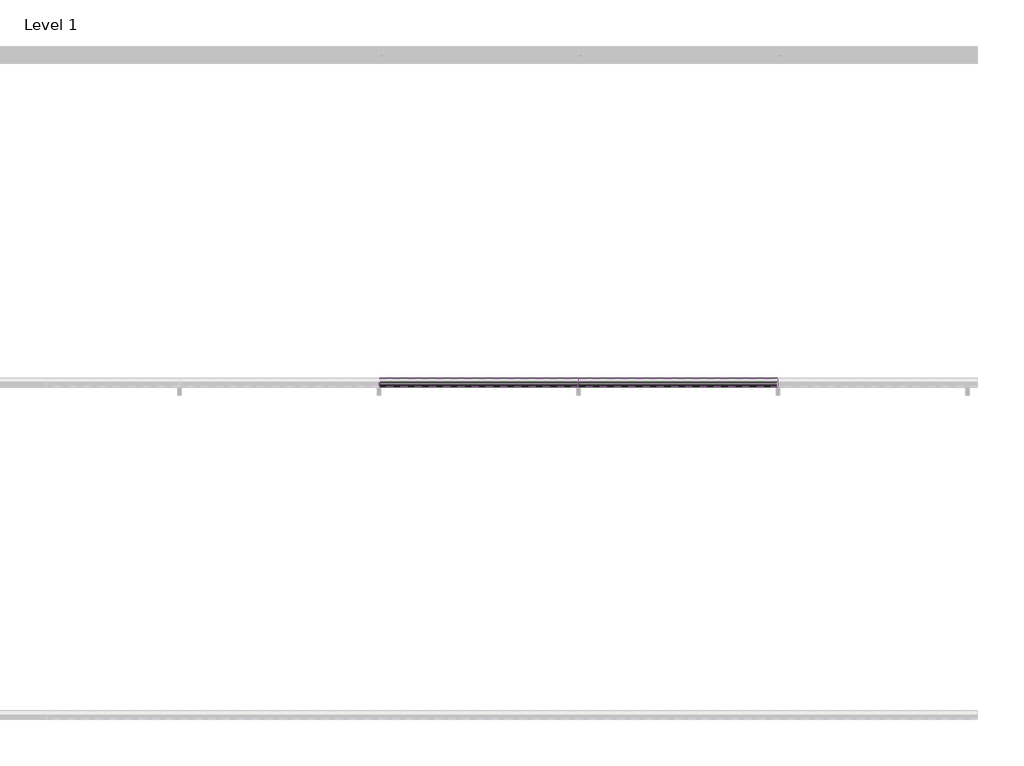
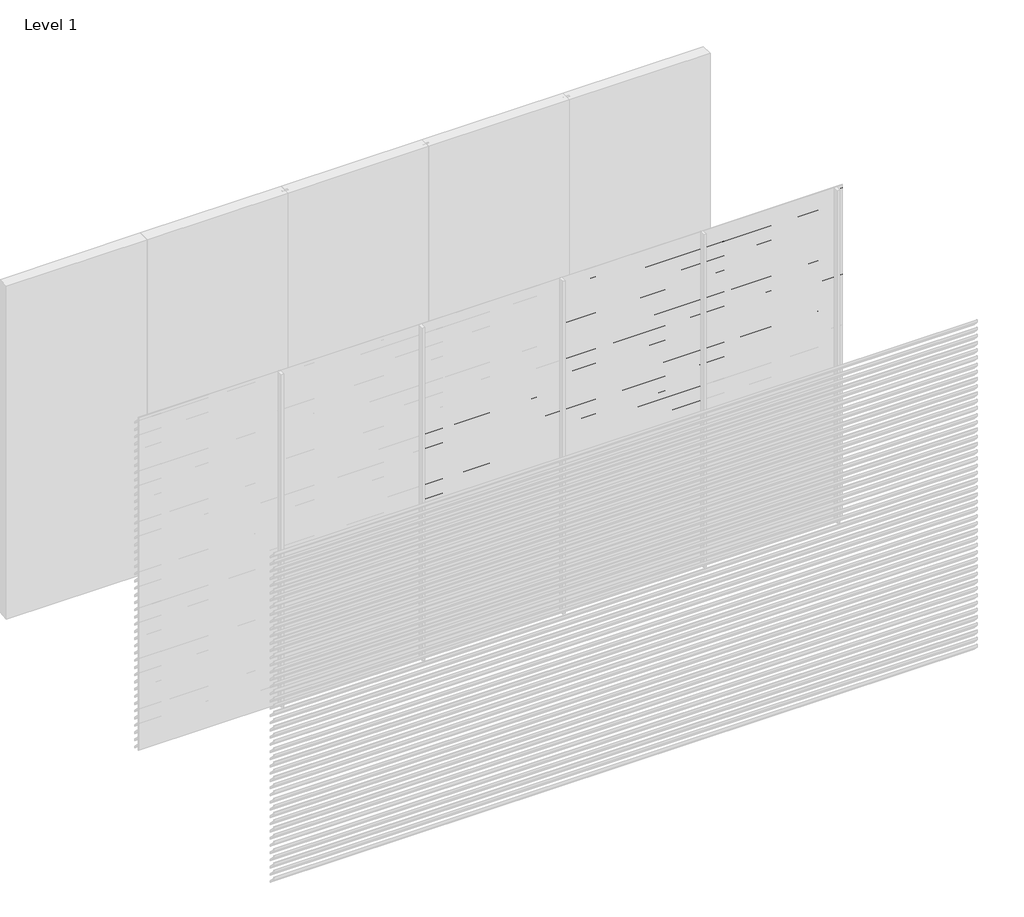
# One storey, part 9 of 12: 97 proxies.
"""IFC4 building model written with IfcOpenShell, lengths in millimetres."""

from ifc_helpers import new_model, si_unit, frame, origin, place, context, project, spatial, polyline, outline, extrude, element, save

model = new_model("IFC4")

# Units and contexts
model_context = context("Model", 3, world=origin())
ifc_project = project(units=[si_unit("LENGTHUNIT", "METRE", prefix="MILLI")], contexts=[model_context])

# Site, building, storey
site = spatial("IfcSite", under=ifc_project)
building = spatial("IfcBuilding", under=site)
storey = spatial("IfcBuildingStorey", under=building, Name="Level 1", Elevation=0.0)

# Proxies
placement = place(None, origin())
element("IfcBuildingElementProxy", 1, Name="Wall Sweeps", at=placement, inside=storey, context=model_context, shape_type="SweptSolid", body=[
    extrude(outline(polyline([(-5995.0, 2080.0), (-5995.0, 2070.7409854), (-5946.0, 2020.0), (-5946.0, 2004.0), (-5997.0, 2056.812046), (-5997.0, 2080.0), (-5995.0, 2080.0)])), frame((2400.0, 0.0, 0.0), z_axis=(1.0, 0.0, 0.0), x_axis=(0.0, 1.0, 0.0)), (0.0, 0.0, 1.0), 1200.0),
])
element("IfcBuildingElementProxy", 2, Name="Wall Sweeps", at=placement, inside=storey, context=model_context, shape_type="SweptSolid", body=[
    extrude(outline(polyline([(-5995.0, 2015.0), (-5995.0, 2005.7409854), (-5946.0, 1955.0), (-5946.0, 1939.0), (-5997.0, 1991.812046), (-5997.0, 2015.0), (-5995.0, 2015.0)])), frame((2400.0, 0.0, 0.0), z_axis=(1.0, 0.0, 0.0), x_axis=(0.0, 1.0, 0.0)), (0.0, 0.0, 1.0), 1200.0),
])
element("IfcBuildingElementProxy", 3, Name="Wall Sweeps", at=placement, inside=storey, context=model_context, shape_type="SweptSolid", body=[
    extrude(outline(polyline([(-5995.0, 1950.0), (-5995.0, 1940.7409854), (-5946.0, 1890.0), (-5946.0, 1874.0), (-5997.0, 1926.812046), (-5997.0, 1950.0), (-5995.0, 1950.0)])), frame((2400.0, 0.0, 0.0), z_axis=(1.0, 0.0, 0.0), x_axis=(0.0, 1.0, 0.0)), (0.0, 0.0, 1.0), 1200.0),
])
element("IfcBuildingElementProxy", 4, Name="Wall Sweeps", at=placement, inside=storey, context=model_context, shape_type="SweptSolid", body=[
    extrude(outline(polyline([(-5995.0, 1885.0), (-5995.0, 1875.7409854), (-5946.0, 1825.0), (-5946.0, 1809.0), (-5997.0, 1861.812046), (-5997.0, 1885.0), (-5995.0, 1885.0)])), frame((2400.0, 0.0, 0.0), z_axis=(1.0, 0.0, 0.0), x_axis=(0.0, 1.0, 0.0)), (0.0, 0.0, 1.0), 1200.0),
])
element("IfcBuildingElementProxy", 5, Name="Wall Sweeps", at=placement, inside=storey, context=model_context, shape_type="SweptSolid", body=[
    extrude(outline(polyline([(-5995.0, 1820.0), (-5995.0, 1810.7409854), (-5946.0, 1760.0), (-5946.0, 1744.0), (-5997.0, 1796.812046), (-5997.0, 1820.0), (-5995.0, 1820.0)])), frame((2400.0, 0.0, 0.0), z_axis=(1.0, 0.0, 0.0), x_axis=(0.0, 1.0, 0.0)), (0.0, 0.0, 1.0), 1200.0),
])
element("IfcBuildingElementProxy", 6, Name="Wall Sweeps", at=placement, inside=storey, context=model_context, shape_type="SweptSolid", body=[
    extrude(outline(polyline([(-5995.0, 1755.0), (-5995.0, 1745.7409854), (-5946.0, 1695.0), (-5946.0, 1679.0), (-5997.0, 1731.812046), (-5997.0, 1755.0), (-5995.0, 1755.0)])), frame((2400.0, 0.0, 0.0), z_axis=(1.0, 0.0, 0.0), x_axis=(0.0, 1.0, 0.0)), (0.0, 0.0, 1.0), 1200.0),
])
element("IfcBuildingElementProxy", 7, Name="Wall Sweeps", at=placement, inside=storey, context=model_context, shape_type="SweptSolid", body=[
    extrude(outline(polyline([(-5995.0, 1690.0), (-5995.0, 1680.7409854), (-5946.0, 1630.0), (-5946.0, 1614.0), (-5997.0, 1666.812046), (-5997.0, 1690.0), (-5995.0, 1690.0)])), frame((2400.0, 0.0, 0.0), z_axis=(1.0, 0.0, 0.0), x_axis=(0.0, 1.0, 0.0)), (0.0, 0.0, 1.0), 1200.0),
])
element("IfcBuildingElementProxy", 8, Name="Wall Sweeps", at=placement, inside=storey, context=model_context, shape_type="SweptSolid", body=[
    extrude(outline(polyline([(-5995.0, 1625.0), (-5995.0, 1615.7409854), (-5946.0, 1565.0), (-5946.0, 1549.0), (-5997.0, 1601.812046), (-5997.0, 1625.0), (-5995.0, 1625.0)])), frame((2400.0, 0.0, 0.0), z_axis=(1.0, 0.0, 0.0), x_axis=(0.0, 1.0, 0.0)), (0.0, 0.0, 1.0), 1200.0),
])
element("IfcBuildingElementProxy", 9, Name="Wall Sweeps", at=placement, inside=storey, context=model_context, shape_type="SweptSolid", body=[
    extrude(outline(polyline([(-5995.0, 1560.0), (-5995.0, 1550.7409854), (-5946.0, 1500.0), (-5946.0, 1484.0), (-5997.0, 1536.812046), (-5997.0, 1560.0), (-5995.0, 1560.0)])), frame((2400.0, 0.0, 0.0), z_axis=(1.0, 0.0, 0.0), x_axis=(0.0, 1.0, 0.0)), (0.0, 0.0, 1.0), 1200.0),
])
element("IfcBuildingElementProxy", 10, Name="Wall Sweeps", at=placement, inside=storey, context=model_context, shape_type="SweptSolid", body=[
    extrude(outline(polyline([(-5995.0, 1495.0), (-5995.0, 1485.7409854), (-5946.0, 1435.0), (-5946.0, 1419.0), (-5997.0, 1471.812046), (-5997.0, 1495.0), (-5995.0, 1495.0)])), frame((2400.0, 0.0, 0.0), z_axis=(1.0, 0.0, 0.0), x_axis=(0.0, 1.0, 0.0)), (0.0, 0.0, 1.0), 1200.0),
])
element("IfcBuildingElementProxy", 11, Name="Wall Sweeps", at=placement, inside=storey, context=model_context, shape_type="SweptSolid", body=[
    extrude(outline(polyline([(-5995.0, 1430.0), (-5995.0, 1420.7409854), (-5946.0, 1370.0), (-5946.0, 1354.0), (-5997.0, 1406.812046), (-5997.0, 1430.0), (-5995.0, 1430.0)])), frame((2400.0, 0.0, 0.0), z_axis=(1.0, 0.0, 0.0), x_axis=(0.0, 1.0, 0.0)), (0.0, 0.0, 1.0), 1200.0),
])
element("IfcBuildingElementProxy", 12, Name="Wall Sweeps", at=placement, inside=storey, context=model_context, shape_type="SweptSolid", body=[
    extrude(outline(polyline([(-5995.0, 1365.0), (-5995.0, 1355.7409854), (-5946.0, 1305.0), (-5946.0, 1289.0), (-5997.0, 1341.812046), (-5997.0, 1365.0), (-5995.0, 1365.0)])), frame((2400.0, 0.0, 0.0), z_axis=(1.0, 0.0, 0.0), x_axis=(0.0, 1.0, 0.0)), (0.0, 0.0, 1.0), 1200.0),
])
element("IfcBuildingElementProxy", 13, Name="Wall Sweeps", at=placement, inside=storey, context=model_context, shape_type="SweptSolid", body=[
    extrude(outline(polyline([(-5995.0, 1300.0), (-5995.0, 1290.7409854), (-5946.0, 1240.0), (-5946.0, 1224.0), (-5997.0, 1276.812046), (-5997.0, 1300.0), (-5995.0, 1300.0)])), frame((2400.0, 0.0, 0.0), z_axis=(1.0, 0.0, 0.0), x_axis=(0.0, 1.0, 0.0)), (0.0, 0.0, 1.0), 1200.0),
])
element("IfcBuildingElementProxy", 14, Name="Wall Sweeps", at=placement, inside=storey, context=model_context, shape_type="SweptSolid", body=[
    extrude(outline(polyline([(-5995.0, 1235.0), (-5995.0, 1225.7409854), (-5946.0, 1175.0), (-5946.0, 1159.0), (-5997.0, 1211.812046), (-5997.0, 1235.0), (-5995.0, 1235.0)])), frame((2400.0, 0.0, 0.0), z_axis=(1.0, 0.0, 0.0), x_axis=(0.0, 1.0, 0.0)), (0.0, 0.0, 1.0), 1200.0),
])
element("IfcBuildingElementProxy", 15, Name="Wall Sweeps", at=placement, inside=storey, context=model_context, shape_type="SweptSolid", body=[
    extrude(outline(polyline([(-5995.0, 1170.0), (-5995.0, 1160.7409854), (-5946.0, 1110.0), (-5946.0, 1094.0), (-5997.0, 1146.812046), (-5997.0, 1170.0), (-5995.0, 1170.0)])), frame((2400.0, 0.0, 0.0), z_axis=(1.0, 0.0, 0.0), x_axis=(0.0, 1.0, 0.0)), (0.0, 0.0, 1.0), 1200.0),
])
element("IfcBuildingElementProxy", 16, Name="Wall Sweeps", at=placement, inside=storey, context=model_context, shape_type="SweptSolid", body=[
    extrude(outline(polyline([(-5995.0, 1105.0), (-5995.0, 1095.7409854), (-5946.0, 1045.0), (-5946.0, 1029.0), (-5997.0, 1081.812046), (-5997.0, 1105.0), (-5995.0, 1105.0)])), frame((2400.0, 0.0, 0.0), z_axis=(1.0, 0.0, 0.0), x_axis=(0.0, 1.0, 0.0)), (0.0, 0.0, 1.0), 1200.0),
])
element("IfcBuildingElementProxy", 17, Name="Wall Sweeps", at=placement, inside=storey, context=model_context, shape_type="SweptSolid", body=[
    extrude(outline(polyline([(-5995.0, 1040.0), (-5995.0, 1030.7409854), (-5946.0, 980.0), (-5946.0, 964.0), (-5997.0, 1016.812046), (-5997.0, 1040.0), (-5995.0, 1040.0)])), frame((2400.0, 0.0, 0.0), z_axis=(1.0, 0.0, 0.0), x_axis=(0.0, 1.0, 0.0)), (0.0, 0.0, 1.0), 1200.0),
])
element("IfcBuildingElementProxy", 18, Name="Wall Sweeps", at=placement, inside=storey, context=model_context, shape_type="SweptSolid", body=[
    extrude(outline(polyline([(-5995.0, 975.0), (-5995.0, 965.7409854), (-5946.0, 915.0), (-5946.0, 899.0), (-5997.0, 951.812046), (-5997.0, 975.0), (-5995.0, 975.0)])), frame((2400.0, 0.0, 0.0), z_axis=(1.0, 0.0, 0.0), x_axis=(0.0, 1.0, 0.0)), (0.0, 0.0, 1.0), 1200.0),
])
element("IfcBuildingElementProxy", 19, Name="Wall Sweeps", at=placement, inside=storey, context=model_context, shape_type="SweptSolid", body=[
    extrude(outline(polyline([(-5995.0, 910.0), (-5995.0, 900.7409854), (-5946.0, 850.0), (-5946.0, 834.0), (-5997.0, 886.812046), (-5997.0, 910.0), (-5995.0, 910.0)])), frame((2400.0, 0.0, 0.0), z_axis=(1.0, 0.0, 0.0), x_axis=(0.0, 1.0, 0.0)), (0.0, 0.0, 1.0), 1200.0),
])
element("IfcBuildingElementProxy", 20, Name="Wall Sweeps", at=placement, inside=storey, context=model_context, shape_type="SweptSolid", body=[
    extrude(outline(polyline([(-5995.0, 845.0), (-5995.0, 835.7409854), (-5946.0, 785.0), (-5946.0, 769.0), (-5997.0, 821.812046), (-5997.0, 845.0), (-5995.0, 845.0)])), frame((2400.0, 0.0, 0.0), z_axis=(1.0, 0.0, 0.0), x_axis=(0.0, 1.0, 0.0)), (0.0, 0.0, 1.0), 1200.0),
])
element("IfcBuildingElementProxy", 21, Name="Wall Sweeps", at=placement, inside=storey, context=model_context, shape_type="SweptSolid", body=[
    extrude(outline(polyline([(-5995.0, 780.0), (-5995.0, 770.7409854), (-5946.0, 720.0), (-5946.0, 704.0), (-5997.0, 756.812046), (-5997.0, 780.0), (-5995.0, 780.0)])), frame((2400.0, 0.0, 0.0), z_axis=(1.0, 0.0, 0.0), x_axis=(0.0, 1.0, 0.0)), (0.0, 0.0, 1.0), 1200.0),
])
element("IfcBuildingElementProxy", 22, Name="Wall Sweeps", at=placement, inside=storey, context=model_context, shape_type="SweptSolid", body=[
    extrude(outline(polyline([(-5995.0, 715.0), (-5995.0, 705.7409854), (-5946.0, 655.0), (-5946.0, 639.0), (-5997.0, 691.812046), (-5997.0, 715.0), (-5995.0, 715.0)])), frame((2400.0, 0.0, 0.0), z_axis=(1.0, 0.0, 0.0), x_axis=(0.0, 1.0, 0.0)), (0.0, 0.0, 1.0), 1200.0),
])
element("IfcBuildingElementProxy", 23, Name="Wall Sweeps", at=placement, inside=storey, context=model_context, shape_type="SweptSolid", body=[
    extrude(outline(polyline([(-5995.0, 650.0), (-5995.0, 640.7409854), (-5946.0, 590.0), (-5946.0, 574.0), (-5997.0, 626.812046), (-5997.0, 650.0), (-5995.0, 650.0)])), frame((2400.0, 0.0, 0.0), z_axis=(1.0, 0.0, 0.0), x_axis=(0.0, 1.0, 0.0)), (0.0, 0.0, 1.0), 1200.0),
])
element("IfcBuildingElementProxy", 24, Name="Wall Sweeps", at=placement, inside=storey, context=model_context, shape_type="SweptSolid", body=[
    extrude(outline(polyline([(-5995.0, 585.0), (-5995.0, 575.7409854), (-5946.0, 525.0), (-5946.0, 509.0), (-5997.0, 561.812046), (-5997.0, 585.0), (-5995.0, 585.0)])), frame((2400.0, 0.0, 0.0), z_axis=(1.0, 0.0, 0.0), x_axis=(0.0, 1.0, 0.0)), (0.0, 0.0, 1.0), 1200.0),
])
element("IfcBuildingElementProxy", 25, Name="Wall Sweeps", at=placement, inside=storey, context=model_context, shape_type="SweptSolid", body=[
    extrude(outline(polyline([(-5995.0, 520.0), (-5995.0, 510.7409854), (-5946.0, 460.0), (-5946.0, 444.0), (-5997.0, 496.812046), (-5997.0, 520.0), (-5995.0, 520.0)])), frame((2400.0, 0.0, 0.0), z_axis=(1.0, 0.0, 0.0), x_axis=(0.0, 1.0, 0.0)), (0.0, 0.0, 1.0), 1200.0),
])
element("IfcBuildingElementProxy", 26, Name="Wall Sweeps", at=placement, inside=storey, context=model_context, shape_type="SweptSolid", body=[
    extrude(outline(polyline([(-5995.0, 455.0), (-5995.0, 445.7409854), (-5946.0, 395.0), (-5946.0, 379.0), (-5997.0, 431.812046), (-5997.0, 455.0), (-5995.0, 455.0)])), frame((2400.0, 0.0, 0.0), z_axis=(1.0, 0.0, 0.0), x_axis=(0.0, 1.0, 0.0)), (0.0, 0.0, 1.0), 1200.0),
])
element("IfcBuildingElementProxy", 27, Name="Wall Sweeps", at=placement, inside=storey, context=model_context, shape_type="SweptSolid", body=[
    extrude(outline(polyline([(-5995.0, 390.0), (-5995.0, 380.7409854), (-5946.0, 330.0), (-5946.0, 314.0), (-5997.0, 366.812046), (-5997.0, 390.0), (-5995.0, 390.0)])), frame((2400.0, 0.0, 0.0), z_axis=(1.0, 0.0, 0.0), x_axis=(0.0, 1.0, 0.0)), (0.0, 0.0, 1.0), 1200.0),
])
element("IfcBuildingElementProxy", 28, Name="Wall Sweeps", at=placement, inside=storey, context=model_context, shape_type="SweptSolid", body=[
    extrude(outline(polyline([(-5995.0, 325.0), (-5995.0, 315.7409854), (-5946.0, 265.0), (-5946.0, 249.0), (-5997.0, 301.812046), (-5997.0, 325.0), (-5995.0, 325.0)])), frame((2400.0, 0.0, 0.0), z_axis=(1.0, 0.0, 0.0), x_axis=(0.0, 1.0, 0.0)), (0.0, 0.0, 1.0), 1200.0),
])
element("IfcBuildingElementProxy", 29, Name="Wall Sweeps", at=placement, inside=storey, context=model_context, shape_type="SweptSolid", body=[
    extrude(outline(polyline([(-5995.0, 260.0), (-5995.0, 250.7409854), (-5946.0, 200.0), (-5946.0, 184.0), (-5997.0, 236.812046), (-5997.0, 260.0), (-5995.0, 260.0)])), frame((2400.0, 0.0, 0.0), z_axis=(1.0, 0.0, 0.0), x_axis=(0.0, 1.0, 0.0)), (0.0, 0.0, 1.0), 1200.0),
])
element("IfcBuildingElementProxy", 30, Name="Wall Sweeps", at=placement, inside=storey, context=model_context, shape_type="SweptSolid", body=[
    extrude(outline(polyline([(-5995.0, 195.0), (-5995.0, 185.7409854), (-5946.0, 135.0), (-5946.0, 119.0), (-5997.0, 171.812046), (-5997.0, 195.0), (-5995.0, 195.0)])), frame((2400.0, 0.0, 0.0), z_axis=(1.0, 0.0, 0.0), x_axis=(0.0, 1.0, 0.0)), (0.0, 0.0, 1.0), 1200.0),
])
element("IfcBuildingElementProxy", 31, Name="Wall Sweeps", at=placement, inside=storey, context=model_context, shape_type="SweptSolid", body=[
    extrude(outline(polyline([(-5995.0, 130.0), (-5995.0, 120.7409854), (-5946.0, 70.0), (-5946.0, 54.0), (-5997.0, 106.812046), (-5997.0, 130.0), (-5995.0, 130.0)])), frame((2400.0, 0.0, 0.0), z_axis=(1.0, 0.0, 0.0), x_axis=(0.0, 1.0, 0.0)), (0.0, 0.0, 1.0), 1200.0),
])
element("IfcBuildingElementProxy", 32, Name="Wall Sweeps", at=placement, inside=storey, context=model_context, shape_type="SweptSolid", body=[
    extrude(outline(polyline([(-5995.0, 65.0), (-5995.0, 55.7409854), (-5946.0, 5.0), (-5946.0, -11.0), (-5997.0, 41.812046), (-5997.0, 65.0), (-5995.0, 65.0)])), frame((2400.0, 0.0, 0.0), z_axis=(1.0, 0.0, 0.0), x_axis=(0.0, 1.0, 0.0)), (0.0, 0.0, 1.0), 1200.0),
])
element("IfcBuildingElementProxy", 33, Name="Wall Sweeps", at=placement, inside=storey, context=model_context, shape_type="SweptSolid", body=[
    extrude(outline(polyline([(-5995.0, 2990.0), (-5995.0, 2980.7409854), (-5946.0, 2930.0), (-5946.0, 2914.0), (-5997.0, 2966.812046), (-5997.0, 2990.0), (-5995.0, 2990.0)])), frame((3600.0, 0.0, 0.0), z_axis=(1.0, 0.0, 0.0), x_axis=(0.0, 1.0, 0.0)), (0.0, 0.0, 1.0), 1200.0),
])
element("IfcBuildingElementProxy", 34, Name="Wall Sweeps", at=placement, inside=storey, context=model_context, shape_type="SweptSolid", body=[
    extrude(outline(polyline([(-5995.0, 2925.0), (-5995.0, 2915.7409854), (-5946.0, 2865.0), (-5946.0, 2849.0), (-5997.0, 2901.812046), (-5997.0, 2925.0), (-5995.0, 2925.0)])), frame((3600.0, 0.0, 0.0), z_axis=(1.0, 0.0, 0.0), x_axis=(0.0, 1.0, 0.0)), (0.0, 0.0, 1.0), 1200.0),
])
element("IfcBuildingElementProxy", 35, Name="Wall Sweeps", at=placement, inside=storey, context=model_context, shape_type="SweptSolid", body=[
    extrude(outline(polyline([(-5995.0, 2860.0), (-5995.0, 2850.7409854), (-5946.0, 2800.0), (-5946.0, 2784.0), (-5997.0, 2836.812046), (-5997.0, 2860.0), (-5995.0, 2860.0)])), frame((3600.0, 0.0, 0.0), z_axis=(1.0, 0.0, 0.0), x_axis=(0.0, 1.0, 0.0)), (0.0, 0.0, 1.0), 1200.0),
])
element("IfcBuildingElementProxy", 36, Name="Wall Sweeps", at=placement, inside=storey, context=model_context, shape_type="SweptSolid", body=[
    extrude(outline(polyline([(-5995.0, 2795.0), (-5995.0, 2785.7409854), (-5946.0, 2735.0), (-5946.0, 2719.0), (-5997.0, 2771.812046), (-5997.0, 2795.0), (-5995.0, 2795.0)])), frame((3600.0, 0.0, 0.0), z_axis=(1.0, 0.0, 0.0), x_axis=(0.0, 1.0, 0.0)), (0.0, 0.0, 1.0), 1200.0),
])
element("IfcBuildingElementProxy", 37, Name="Wall Sweeps", at=placement, inside=storey, context=model_context, shape_type="SweptSolid", body=[
    extrude(outline(polyline([(-5995.0, 2730.0), (-5995.0, 2720.7409854), (-5946.0, 2670.0), (-5946.0, 2654.0), (-5997.0, 2706.812046), (-5997.0, 2730.0), (-5995.0, 2730.0)])), frame((3600.0, 0.0, 0.0), z_axis=(1.0, 0.0, 0.0), x_axis=(0.0, 1.0, 0.0)), (0.0, 0.0, 1.0), 1200.0),
])
element("IfcBuildingElementProxy", 38, Name="Wall Sweeps", at=placement, inside=storey, context=model_context, shape_type="SweptSolid", body=[
    extrude(outline(polyline([(-5995.0, 2665.0), (-5995.0, 2655.7409854), (-5946.0, 2605.0), (-5946.0, 2589.0), (-5997.0, 2641.812046), (-5997.0, 2665.0), (-5995.0, 2665.0)])), frame((3600.0, 0.0, 0.0), z_axis=(1.0, 0.0, 0.0), x_axis=(0.0, 1.0, 0.0)), (0.0, 0.0, 1.0), 1200.0),
])
element("IfcBuildingElementProxy", 39, Name="Wall Sweeps", at=placement, inside=storey, context=model_context, shape_type="SweptSolid", body=[
    extrude(outline(polyline([(-5995.0, 2600.0), (-5995.0, 2590.7409854), (-5946.0, 2540.0), (-5946.0, 2524.0), (-5997.0, 2576.812046), (-5997.0, 2600.0), (-5995.0, 2600.0)])), frame((3600.0, 0.0, 0.0), z_axis=(1.0, 0.0, 0.0), x_axis=(0.0, 1.0, 0.0)), (0.0, 0.0, 1.0), 1200.0),
])
element("IfcBuildingElementProxy", 40, Name="Wall Sweeps", at=placement, inside=storey, context=model_context, shape_type="SweptSolid", body=[
    extrude(outline(polyline([(-5995.0, 2535.0), (-5995.0, 2525.7409854), (-5946.0, 2475.0), (-5946.0, 2459.0), (-5997.0, 2511.812046), (-5997.0, 2535.0), (-5995.0, 2535.0)])), frame((3600.0, 0.0, 0.0), z_axis=(1.0, 0.0, 0.0), x_axis=(0.0, 1.0, 0.0)), (0.0, 0.0, 1.0), 1200.0),
])
element("IfcBuildingElementProxy", 41, Name="Wall Sweeps", at=placement, inside=storey, context=model_context, shape_type="SweptSolid", body=[
    extrude(outline(polyline([(-5995.0, 2470.0), (-5995.0, 2460.7409854), (-5946.0, 2410.0), (-5946.0, 2394.0), (-5997.0, 2446.812046), (-5997.0, 2470.0), (-5995.0, 2470.0)])), frame((3600.0, 0.0, 0.0), z_axis=(1.0, 0.0, 0.0), x_axis=(0.0, 1.0, 0.0)), (0.0, 0.0, 1.0), 1200.0),
])
element("IfcBuildingElementProxy", 42, Name="Wall Sweeps", at=placement, inside=storey, context=model_context, shape_type="SweptSolid", body=[
    extrude(outline(polyline([(-5995.0, 2405.0), (-5995.0, 2395.7409854), (-5946.0, 2345.0), (-5946.0, 2329.0), (-5997.0, 2381.812046), (-5997.0, 2405.0), (-5995.0, 2405.0)])), frame((3600.0, 0.0, 0.0), z_axis=(1.0, 0.0, 0.0), x_axis=(0.0, 1.0, 0.0)), (0.0, 0.0, 1.0), 1200.0),
])
element("IfcBuildingElementProxy", 43, Name="Wall Sweeps", at=placement, inside=storey, context=model_context, shape_type="SweptSolid", body=[
    extrude(outline(polyline([(-5995.0, 2340.0), (-5995.0, 2330.7409854), (-5946.0, 2280.0), (-5946.0, 2264.0), (-5997.0, 2316.812046), (-5997.0, 2340.0), (-5995.0, 2340.0)])), frame((3600.0, 0.0, 0.0), z_axis=(1.0, 0.0, 0.0), x_axis=(0.0, 1.0, 0.0)), (0.0, 0.0, 1.0), 1200.0),
])
element("IfcBuildingElementProxy", 44, Name="Wall Sweeps", at=placement, inside=storey, context=model_context, shape_type="SweptSolid", body=[
    extrude(outline(polyline([(-5995.0, 2275.0), (-5995.0, 2265.7409854), (-5946.0, 2215.0), (-5946.0, 2199.0), (-5997.0, 2251.812046), (-5997.0, 2275.0), (-5995.0, 2275.0)])), frame((3600.0, 0.0, 0.0), z_axis=(1.0, 0.0, 0.0), x_axis=(0.0, 1.0, 0.0)), (0.0, 0.0, 1.0), 1200.0),
])
element("IfcBuildingElementProxy", 45, Name="Wall Sweeps", at=placement, inside=storey, context=model_context, shape_type="SweptSolid", body=[
    extrude(outline(polyline([(-5995.0, 2210.0), (-5995.0, 2200.7409854), (-5946.0, 2150.0), (-5946.0, 2134.0), (-5997.0, 2186.812046), (-5997.0, 2210.0), (-5995.0, 2210.0)])), frame((3600.0, 0.0, 0.0), z_axis=(1.0, 0.0, 0.0), x_axis=(0.0, 1.0, 0.0)), (0.0, 0.0, 1.0), 1200.0),
])
element("IfcBuildingElementProxy", 46, Name="Wall Sweeps", at=placement, inside=storey, context=model_context, shape_type="SweptSolid", body=[
    extrude(outline(polyline([(-5995.0, 2145.0), (-5995.0, 2135.7409854), (-5946.0, 2085.0), (-5946.0, 2069.0), (-5997.0, 2121.812046), (-5997.0, 2145.0), (-5995.0, 2145.0)])), frame((3600.0, 0.0, 0.0), z_axis=(1.0, 0.0, 0.0), x_axis=(0.0, 1.0, 0.0)), (0.0, 0.0, 1.0), 1200.0),
])
element("IfcBuildingElementProxy", 47, Name="Wall Sweeps", at=placement, inside=storey, context=model_context, shape_type="SweptSolid", body=[
    extrude(outline(polyline([(-5995.0, 2080.0), (-5995.0, 2070.7409854), (-5946.0, 2020.0), (-5946.0, 2004.0), (-5997.0, 2056.812046), (-5997.0, 2080.0), (-5995.0, 2080.0)])), frame((3600.0, 0.0, 0.0), z_axis=(1.0, 0.0, 0.0), x_axis=(0.0, 1.0, 0.0)), (0.0, 0.0, 1.0), 1200.0),
])
element("IfcBuildingElementProxy", 48, Name="Wall Sweeps", at=placement, inside=storey, context=model_context, shape_type="SweptSolid", body=[
    extrude(outline(polyline([(-5995.0, 2015.0), (-5995.0, 2005.7409854), (-5946.0, 1955.0), (-5946.0, 1939.0), (-5997.0, 1991.812046), (-5997.0, 2015.0), (-5995.0, 2015.0)])), frame((3600.0, 0.0, 0.0), z_axis=(1.0, 0.0, 0.0), x_axis=(0.0, 1.0, 0.0)), (0.0, 0.0, 1.0), 1200.0),
])
element("IfcBuildingElementProxy", 49, Name="Wall Sweeps", at=placement, inside=storey, context=model_context, shape_type="SweptSolid", body=[
    extrude(outline(polyline([(-5995.0, 1950.0), (-5995.0, 1940.7409854), (-5946.0, 1890.0), (-5946.0, 1874.0), (-5997.0, 1926.812046), (-5997.0, 1950.0), (-5995.0, 1950.0)])), frame((3600.0, 0.0, 0.0), z_axis=(1.0, 0.0, 0.0), x_axis=(0.0, 1.0, 0.0)), (0.0, 0.0, 1.0), 1200.0),
])
element("IfcBuildingElementProxy", 50, Name="Wall Sweeps", at=placement, inside=storey, context=model_context, shape_type="SweptSolid", body=[
    extrude(outline(polyline([(-5995.0, 1885.0), (-5995.0, 1875.7409854), (-5946.0, 1825.0), (-5946.0, 1809.0), (-5997.0, 1861.812046), (-5997.0, 1885.0), (-5995.0, 1885.0)])), frame((3600.0, 0.0, 0.0), z_axis=(1.0, 0.0, 0.0), x_axis=(0.0, 1.0, 0.0)), (0.0, 0.0, 1.0), 1200.0),
])
element("IfcBuildingElementProxy", 51, Name="Wall Sweeps", at=placement, inside=storey, context=model_context, shape_type="SweptSolid", body=[
    extrude(outline(polyline([(-5995.0, 1820.0), (-5995.0, 1810.7409854), (-5946.0, 1760.0), (-5946.0, 1744.0), (-5997.0, 1796.812046), (-5997.0, 1820.0), (-5995.0, 1820.0)])), frame((3600.0, 0.0, 0.0), z_axis=(1.0, 0.0, 0.0), x_axis=(0.0, 1.0, 0.0)), (0.0, 0.0, 1.0), 1200.0),
])
element("IfcBuildingElementProxy", 52, Name="Wall Sweeps", at=placement, inside=storey, context=model_context, shape_type="SweptSolid", body=[
    extrude(outline(polyline([(-5995.0, 1755.0), (-5995.0, 1745.7409854), (-5946.0, 1695.0), (-5946.0, 1679.0), (-5997.0, 1731.812046), (-5997.0, 1755.0), (-5995.0, 1755.0)])), frame((3600.0, 0.0, 0.0), z_axis=(1.0, 0.0, 0.0), x_axis=(0.0, 1.0, 0.0)), (0.0, 0.0, 1.0), 1200.0),
])
element("IfcBuildingElementProxy", 53, Name="Wall Sweeps", at=placement, inside=storey, context=model_context, shape_type="SweptSolid", body=[
    extrude(outline(polyline([(-5995.0, 1690.0), (-5995.0, 1680.7409854), (-5946.0, 1630.0), (-5946.0, 1614.0), (-5997.0, 1666.812046), (-5997.0, 1690.0), (-5995.0, 1690.0)])), frame((3600.0, 0.0, 0.0), z_axis=(1.0, 0.0, 0.0), x_axis=(0.0, 1.0, 0.0)), (0.0, 0.0, 1.0), 1200.0),
])
element("IfcBuildingElementProxy", 54, Name="Wall Sweeps", at=placement, inside=storey, context=model_context, shape_type="SweptSolid", body=[
    extrude(outline(polyline([(-5995.0, 1625.0), (-5995.0, 1615.7409854), (-5946.0, 1565.0), (-5946.0, 1549.0), (-5997.0, 1601.812046), (-5997.0, 1625.0), (-5995.0, 1625.0)])), frame((3600.0, 0.0, 0.0), z_axis=(1.0, 0.0, 0.0), x_axis=(0.0, 1.0, 0.0)), (0.0, 0.0, 1.0), 1200.0),
])
element("IfcBuildingElementProxy", 55, Name="Wall Sweeps", at=placement, inside=storey, context=model_context, shape_type="SweptSolid", body=[
    extrude(outline(polyline([(-5995.0, 1560.0), (-5995.0, 1550.7409854), (-5946.0, 1500.0), (-5946.0, 1484.0), (-5997.0, 1536.812046), (-5997.0, 1560.0), (-5995.0, 1560.0)])), frame((3600.0, 0.0, 0.0), z_axis=(1.0, 0.0, 0.0), x_axis=(0.0, 1.0, 0.0)), (0.0, 0.0, 1.0), 1200.0),
])
element("IfcBuildingElementProxy", 56, Name="Wall Sweeps", at=placement, inside=storey, context=model_context, shape_type="SweptSolid", body=[
    extrude(outline(polyline([(-5995.0, 1495.0), (-5995.0, 1485.7409854), (-5946.0, 1435.0), (-5946.0, 1419.0), (-5997.0, 1471.812046), (-5997.0, 1495.0), (-5995.0, 1495.0)])), frame((3600.0, 0.0, 0.0), z_axis=(1.0, 0.0, 0.0), x_axis=(0.0, 1.0, 0.0)), (0.0, 0.0, 1.0), 1200.0),
])
element("IfcBuildingElementProxy", 57, Name="Wall Sweeps", at=placement, inside=storey, context=model_context, shape_type="SweptSolid", body=[
    extrude(outline(polyline([(-5995.0, 1430.0), (-5995.0, 1420.7409854), (-5946.0, 1370.0), (-5946.0, 1354.0), (-5997.0, 1406.812046), (-5997.0, 1430.0), (-5995.0, 1430.0)])), frame((3600.0, 0.0, 0.0), z_axis=(1.0, 0.0, 0.0), x_axis=(0.0, 1.0, 0.0)), (0.0, 0.0, 1.0), 1200.0),
])
element("IfcBuildingElementProxy", 58, Name="Wall Sweeps", at=placement, inside=storey, context=model_context, shape_type="SweptSolid", body=[
    extrude(outline(polyline([(-5995.0, 1365.0), (-5995.0, 1355.7409854), (-5946.0, 1305.0), (-5946.0, 1289.0), (-5997.0, 1341.812046), (-5997.0, 1365.0), (-5995.0, 1365.0)])), frame((3600.0, 0.0, 0.0), z_axis=(1.0, 0.0, 0.0), x_axis=(0.0, 1.0, 0.0)), (0.0, 0.0, 1.0), 1200.0),
])
element("IfcBuildingElementProxy", 59, Name="Wall Sweeps", at=placement, inside=storey, context=model_context, shape_type="SweptSolid", body=[
    extrude(outline(polyline([(-5995.0, 1300.0), (-5995.0, 1290.7409854), (-5946.0, 1240.0), (-5946.0, 1224.0), (-5997.0, 1276.812046), (-5997.0, 1300.0), (-5995.0, 1300.0)])), frame((3600.0, 0.0, 0.0), z_axis=(1.0, 0.0, 0.0), x_axis=(0.0, 1.0, 0.0)), (0.0, 0.0, 1.0), 1200.0),
])
element("IfcBuildingElementProxy", 60, Name="Wall Sweeps", at=placement, inside=storey, context=model_context, shape_type="SweptSolid", body=[
    extrude(outline(polyline([(-5995.0, 1235.0), (-5995.0, 1225.7409854), (-5946.0, 1175.0), (-5946.0, 1159.0), (-5997.0, 1211.812046), (-5997.0, 1235.0), (-5995.0, 1235.0)])), frame((3600.0, 0.0, 0.0), z_axis=(1.0, 0.0, 0.0), x_axis=(0.0, 1.0, 0.0)), (0.0, 0.0, 1.0), 1200.0),
])
element("IfcBuildingElementProxy", 61, Name="Wall Sweeps", at=placement, inside=storey, context=model_context, shape_type="SweptSolid", body=[
    extrude(outline(polyline([(-5995.0, 1170.0), (-5995.0, 1160.7409854), (-5946.0, 1110.0), (-5946.0, 1094.0), (-5997.0, 1146.812046), (-5997.0, 1170.0), (-5995.0, 1170.0)])), frame((3600.0, 0.0, 0.0), z_axis=(1.0, 0.0, 0.0), x_axis=(0.0, 1.0, 0.0)), (0.0, 0.0, 1.0), 1200.0),
])
element("IfcBuildingElementProxy", 62, Name="Wall Sweeps", at=placement, inside=storey, context=model_context, shape_type="SweptSolid", body=[
    extrude(outline(polyline([(-5995.0, 1105.0), (-5995.0, 1095.7409854), (-5946.0, 1045.0), (-5946.0, 1029.0), (-5997.0, 1081.812046), (-5997.0, 1105.0), (-5995.0, 1105.0)])), frame((3600.0, 0.0, 0.0), z_axis=(1.0, 0.0, 0.0), x_axis=(0.0, 1.0, 0.0)), (0.0, 0.0, 1.0), 1200.0),
])
element("IfcBuildingElementProxy", 63, Name="Wall Sweeps", at=placement, inside=storey, context=model_context, shape_type="SweptSolid", body=[
    extrude(outline(polyline([(-5995.0, 1040.0), (-5995.0, 1030.7409854), (-5946.0, 980.0), (-5946.0, 964.0), (-5997.0, 1016.812046), (-5997.0, 1040.0), (-5995.0, 1040.0)])), frame((3600.0, 0.0, 0.0), z_axis=(1.0, 0.0, 0.0), x_axis=(0.0, 1.0, 0.0)), (0.0, 0.0, 1.0), 1200.0),
])
element("IfcBuildingElementProxy", 64, Name="Wall Sweeps", at=placement, inside=storey, context=model_context, shape_type="SweptSolid", body=[
    extrude(outline(polyline([(-5995.0, 975.0), (-5995.0, 965.7409854), (-5946.0, 915.0), (-5946.0, 899.0), (-5997.0, 951.812046), (-5997.0, 975.0), (-5995.0, 975.0)])), frame((3600.0, 0.0, 0.0), z_axis=(1.0, 0.0, 0.0), x_axis=(0.0, 1.0, 0.0)), (0.0, 0.0, 1.0), 1200.0),
])
element("IfcBuildingElementProxy", 65, Name="Wall Sweeps", at=placement, inside=storey, context=model_context, shape_type="SweptSolid", body=[
    extrude(outline(polyline([(-5995.0, 910.0), (-5995.0, 900.7409854), (-5946.0, 850.0), (-5946.0, 834.0), (-5997.0, 886.812046), (-5997.0, 910.0), (-5995.0, 910.0)])), frame((3600.0, 0.0, 0.0), z_axis=(1.0, 0.0, 0.0), x_axis=(0.0, 1.0, 0.0)), (0.0, 0.0, 1.0), 1200.0),
])
element("IfcBuildingElementProxy", 66, Name="Wall Sweeps", at=placement, inside=storey, context=model_context, shape_type="SweptSolid", body=[
    extrude(outline(polyline([(-5995.0, 845.0), (-5995.0, 835.7409854), (-5946.0, 785.0), (-5946.0, 769.0), (-5997.0, 821.812046), (-5997.0, 845.0), (-5995.0, 845.0)])), frame((3600.0, 0.0, 0.0), z_axis=(1.0, 0.0, 0.0), x_axis=(0.0, 1.0, 0.0)), (0.0, 0.0, 1.0), 1200.0),
])
element("IfcBuildingElementProxy", 67, Name="Wall Sweeps", at=placement, inside=storey, context=model_context, shape_type="SweptSolid", body=[
    extrude(outline(polyline([(-5995.0, 780.0), (-5995.0, 770.7409854), (-5946.0, 720.0), (-5946.0, 704.0), (-5997.0, 756.812046), (-5997.0, 780.0), (-5995.0, 780.0)])), frame((3600.0, 0.0, 0.0), z_axis=(1.0, 0.0, 0.0), x_axis=(0.0, 1.0, 0.0)), (0.0, 0.0, 1.0), 1200.0),
])
element("IfcBuildingElementProxy", 68, Name="Wall Sweeps", at=placement, inside=storey, context=model_context, shape_type="SweptSolid", body=[
    extrude(outline(polyline([(-5995.0, 715.0), (-5995.0, 705.7409854), (-5946.0, 655.0), (-5946.0, 639.0), (-5997.0, 691.812046), (-5997.0, 715.0), (-5995.0, 715.0)])), frame((3600.0, 0.0, 0.0), z_axis=(1.0, 0.0, 0.0), x_axis=(0.0, 1.0, 0.0)), (0.0, 0.0, 1.0), 1200.0),
])
element("IfcBuildingElementProxy", 69, Name="Wall Sweeps", at=placement, inside=storey, context=model_context, shape_type="SweptSolid", body=[
    extrude(outline(polyline([(-5995.0, 650.0), (-5995.0, 640.7409854), (-5946.0, 590.0), (-5946.0, 574.0), (-5997.0, 626.812046), (-5997.0, 650.0), (-5995.0, 650.0)])), frame((3600.0, 0.0, 0.0), z_axis=(1.0, 0.0, 0.0), x_axis=(0.0, 1.0, 0.0)), (0.0, 0.0, 1.0), 1200.0),
])
element("IfcBuildingElementProxy", 70, Name="Wall Sweeps", at=placement, inside=storey, context=model_context, shape_type="SweptSolid", body=[
    extrude(outline(polyline([(-5995.0, 585.0), (-5995.0, 575.7409854), (-5946.0, 525.0), (-5946.0, 509.0), (-5997.0, 561.812046), (-5997.0, 585.0), (-5995.0, 585.0)])), frame((3600.0, 0.0, 0.0), z_axis=(1.0, 0.0, 0.0), x_axis=(0.0, 1.0, 0.0)), (0.0, 0.0, 1.0), 1200.0),
])
element("IfcBuildingElementProxy", 71, Name="Wall Sweeps", at=placement, inside=storey, context=model_context, shape_type="SweptSolid", body=[
    extrude(outline(polyline([(-5995.0, 520.0), (-5995.0, 510.7409854), (-5946.0, 460.0), (-5946.0, 444.0), (-5997.0, 496.812046), (-5997.0, 520.0), (-5995.0, 520.0)])), frame((3600.0, 0.0, 0.0), z_axis=(1.0, 0.0, 0.0), x_axis=(0.0, 1.0, 0.0)), (0.0, 0.0, 1.0), 1200.0),
])
element("IfcBuildingElementProxy", 72, Name="Wall Sweeps", at=placement, inside=storey, context=model_context, shape_type="SweptSolid", body=[
    extrude(outline(polyline([(-5995.0, 455.0), (-5995.0, 445.7409854), (-5946.0, 395.0), (-5946.0, 379.0), (-5997.0, 431.812046), (-5997.0, 455.0), (-5995.0, 455.0)])), frame((3600.0, 0.0, 0.0), z_axis=(1.0, 0.0, 0.0), x_axis=(0.0, 1.0, 0.0)), (0.0, 0.0, 1.0), 1200.0),
])
element("IfcBuildingElementProxy", 73, Name="Wall Sweeps", at=placement, inside=storey, context=model_context, shape_type="SweptSolid", body=[
    extrude(outline(polyline([(-5995.0, 390.0), (-5995.0, 380.7409854), (-5946.0, 330.0), (-5946.0, 314.0), (-5997.0, 366.812046), (-5997.0, 390.0), (-5995.0, 390.0)])), frame((3600.0, 0.0, 0.0), z_axis=(1.0, 0.0, 0.0), x_axis=(0.0, 1.0, 0.0)), (0.0, 0.0, 1.0), 1200.0),
])
element("IfcBuildingElementProxy", 74, Name="Wall Sweeps", at=placement, inside=storey, context=model_context, shape_type="SweptSolid", body=[
    extrude(outline(polyline([(-5995.0, 325.0), (-5995.0, 315.7409854), (-5946.0, 265.0), (-5946.0, 249.0), (-5997.0, 301.812046), (-5997.0, 325.0), (-5995.0, 325.0)])), frame((3600.0, 0.0, 0.0), z_axis=(1.0, 0.0, 0.0), x_axis=(0.0, 1.0, 0.0)), (0.0, 0.0, 1.0), 1200.0),
])
element("IfcBuildingElementProxy", 75, Name="Wall Sweeps", at=placement, inside=storey, context=model_context, shape_type="SweptSolid", body=[
    extrude(outline(polyline([(-5995.0, 260.0), (-5995.0, 250.7409854), (-5946.0, 200.0), (-5946.0, 184.0), (-5997.0, 236.812046), (-5997.0, 260.0), (-5995.0, 260.0)])), frame((3600.0, 0.0, 0.0), z_axis=(1.0, 0.0, 0.0), x_axis=(0.0, 1.0, 0.0)), (0.0, 0.0, 1.0), 1200.0),
])
element("IfcBuildingElementProxy", 76, Name="Wall Sweeps", at=placement, inside=storey, context=model_context, shape_type="SweptSolid", body=[
    extrude(outline(polyline([(-5995.0, 195.0), (-5995.0, 185.7409854), (-5946.0, 135.0), (-5946.0, 119.0), (-5997.0, 171.812046), (-5997.0, 195.0), (-5995.0, 195.0)])), frame((3600.0, 0.0, 0.0), z_axis=(1.0, 0.0, 0.0), x_axis=(0.0, 1.0, 0.0)), (0.0, 0.0, 1.0), 1200.0),
])
element("IfcBuildingElementProxy", 77, Name="Wall Sweeps", at=placement, inside=storey, context=model_context, shape_type="SweptSolid", body=[
    extrude(outline(polyline([(-5995.0, 130.0), (-5995.0, 120.7409854), (-5946.0, 70.0), (-5946.0, 54.0), (-5997.0, 106.812046), (-5997.0, 130.0), (-5995.0, 130.0)])), frame((3600.0, 0.0, 0.0), z_axis=(1.0, 0.0, 0.0), x_axis=(0.0, 1.0, 0.0)), (0.0, 0.0, 1.0), 1200.0),
])
element("IfcBuildingElementProxy", 78, Name="Wall Sweeps", at=placement, inside=storey, context=model_context, shape_type="SweptSolid", body=[
    extrude(outline(polyline([(-5995.0, 65.0), (-5995.0, 55.7409854), (-5946.0, 5.0), (-5946.0, -11.0), (-5997.0, 41.812046), (-5997.0, 65.0), (-5995.0, 65.0)])), frame((3600.0, 0.0, 0.0), z_axis=(1.0, 0.0, 0.0), x_axis=(0.0, 1.0, 0.0)), (0.0, 0.0, 1.0), 1200.0),
])
element("IfcBuildingElementProxy", 79, Name="Wall Sweeps", at=placement, inside=storey, context=model_context, shape_type="SweptSolid", body=[
    extrude(outline(polyline([(-5995.0, 2990.0), (-5995.0, 2980.7409854), (-5946.0, 2930.0), (-5946.0, 2914.0), (-5997.0, 2966.812046), (-5997.0, 2990.0), (-5995.0, 2990.0)])), frame((4800.0, 0.0, 0.0), z_axis=(1.0, 0.0, 0.0), x_axis=(0.0, 1.0, 0.0)), (0.0, 0.0, 1.0), 1200.0),
])
element("IfcBuildingElementProxy", 80, Name="Wall Sweeps", at=placement, inside=storey, context=model_context, shape_type="SweptSolid", body=[
    extrude(outline(polyline([(-5995.0, 2925.0), (-5995.0, 2915.7409854), (-5946.0, 2865.0), (-5946.0, 2849.0), (-5997.0, 2901.812046), (-5997.0, 2925.0), (-5995.0, 2925.0)])), frame((4800.0, 0.0, 0.0), z_axis=(1.0, 0.0, 0.0), x_axis=(0.0, 1.0, 0.0)), (0.0, 0.0, 1.0), 1200.0),
])
element("IfcBuildingElementProxy", 81, Name="Wall Sweeps", at=placement, inside=storey, context=model_context, shape_type="SweptSolid", body=[
    extrude(outline(polyline([(-5995.0, 2860.0), (-5995.0, 2850.7409854), (-5946.0, 2800.0), (-5946.0, 2784.0), (-5997.0, 2836.812046), (-5997.0, 2860.0), (-5995.0, 2860.0)])), frame((4800.0, 0.0, 0.0), z_axis=(1.0, 0.0, 0.0), x_axis=(0.0, 1.0, 0.0)), (0.0, 0.0, 1.0), 1200.0),
])
element("IfcBuildingElementProxy", 82, Name="Wall Sweeps", at=placement, inside=storey, context=model_context, shape_type="SweptSolid", body=[
    extrude(outline(polyline([(-5995.0, 2795.0), (-5995.0, 2785.7409854), (-5946.0, 2735.0), (-5946.0, 2719.0), (-5997.0, 2771.812046), (-5997.0, 2795.0), (-5995.0, 2795.0)])), frame((4800.0, 0.0, 0.0), z_axis=(1.0, 0.0, 0.0), x_axis=(0.0, 1.0, 0.0)), (0.0, 0.0, 1.0), 1200.0),
])
element("IfcBuildingElementProxy", 83, Name="Wall Sweeps", at=placement, inside=storey, context=model_context, shape_type="SweptSolid", body=[
    extrude(outline(polyline([(-5995.0, 2730.0), (-5995.0, 2720.7409854), (-5946.0, 2670.0), (-5946.0, 2654.0), (-5997.0, 2706.812046), (-5997.0, 2730.0), (-5995.0, 2730.0)])), frame((4800.0, 0.0, 0.0), z_axis=(1.0, 0.0, 0.0), x_axis=(0.0, 1.0, 0.0)), (0.0, 0.0, 1.0), 1200.0),
])
element("IfcBuildingElementProxy", 84, Name="Wall Sweeps", at=placement, inside=storey, context=model_context, shape_type="SweptSolid", body=[
    extrude(outline(polyline([(-5995.0, 2665.0), (-5995.0, 2655.7409854), (-5946.0, 2605.0), (-5946.0, 2589.0), (-5997.0, 2641.812046), (-5997.0, 2665.0), (-5995.0, 2665.0)])), frame((4800.0, 0.0, 0.0), z_axis=(1.0, 0.0, 0.0), x_axis=(0.0, 1.0, 0.0)), (0.0, 0.0, 1.0), 1200.0),
])
element("IfcBuildingElementProxy", 85, Name="Wall Sweeps", at=placement, inside=storey, context=model_context, shape_type="SweptSolid", body=[
    extrude(outline(polyline([(-5995.0, 2600.0), (-5995.0, 2590.7409854), (-5946.0, 2540.0), (-5946.0, 2524.0), (-5997.0, 2576.812046), (-5997.0, 2600.0), (-5995.0, 2600.0)])), frame((4800.0, 0.0, 0.0), z_axis=(1.0, 0.0, 0.0), x_axis=(0.0, 1.0, 0.0)), (0.0, 0.0, 1.0), 1200.0),
])
element("IfcBuildingElementProxy", 86, Name="Wall Sweeps", at=placement, inside=storey, context=model_context, shape_type="SweptSolid", body=[
    extrude(outline(polyline([(-5995.0, 2535.0), (-5995.0, 2525.7409854), (-5946.0, 2475.0), (-5946.0, 2459.0), (-5997.0, 2511.812046), (-5997.0, 2535.0), (-5995.0, 2535.0)])), frame((4800.0, 0.0, 0.0), z_axis=(1.0, 0.0, 0.0), x_axis=(0.0, 1.0, 0.0)), (0.0, 0.0, 1.0), 1200.0),
])
element("IfcBuildingElementProxy", 87, Name="Wall Sweeps", at=placement, inside=storey, context=model_context, shape_type="SweptSolid", body=[
    extrude(outline(polyline([(-5995.0, 2470.0), (-5995.0, 2460.7409854), (-5946.0, 2410.0), (-5946.0, 2394.0), (-5997.0, 2446.812046), (-5997.0, 2470.0), (-5995.0, 2470.0)])), frame((4800.0, 0.0, 0.0), z_axis=(1.0, 0.0, 0.0), x_axis=(0.0, 1.0, 0.0)), (0.0, 0.0, 1.0), 1200.0),
])
element("IfcBuildingElementProxy", 88, Name="Wall Sweeps", at=placement, inside=storey, context=model_context, shape_type="SweptSolid", body=[
    extrude(outline(polyline([(-5995.0, 2405.0), (-5995.0, 2395.7409854), (-5946.0, 2345.0), (-5946.0, 2329.0), (-5997.0, 2381.812046), (-5997.0, 2405.0), (-5995.0, 2405.0)])), frame((4800.0, 0.0, 0.0), z_axis=(1.0, 0.0, 0.0), x_axis=(0.0, 1.0, 0.0)), (0.0, 0.0, 1.0), 1200.0),
])
element("IfcBuildingElementProxy", 89, Name="Wall Sweeps", at=placement, inside=storey, context=model_context, shape_type="SweptSolid", body=[
    extrude(outline(polyline([(-5995.0, 2340.0), (-5995.0, 2330.7409854), (-5946.0, 2280.0), (-5946.0, 2264.0), (-5997.0, 2316.812046), (-5997.0, 2340.0), (-5995.0, 2340.0)])), frame((4800.0, 0.0, 0.0), z_axis=(1.0, 0.0, 0.0), x_axis=(0.0, 1.0, 0.0)), (0.0, 0.0, 1.0), 1200.0),
])
element("IfcBuildingElementProxy", 90, Name="Wall Sweeps", at=placement, inside=storey, context=model_context, shape_type="SweptSolid", body=[
    extrude(outline(polyline([(-5995.0, 2275.0), (-5995.0, 2265.7409854), (-5946.0, 2215.0), (-5946.0, 2199.0), (-5997.0, 2251.812046), (-5997.0, 2275.0), (-5995.0, 2275.0)])), frame((4800.0, 0.0, 0.0), z_axis=(1.0, 0.0, 0.0), x_axis=(0.0, 1.0, 0.0)), (0.0, 0.0, 1.0), 1200.0),
])
element("IfcBuildingElementProxy", 91, Name="Wall Sweeps", at=placement, inside=storey, context=model_context, shape_type="SweptSolid", body=[
    extrude(outline(polyline([(-5995.0, 2210.0), (-5995.0, 2200.7409854), (-5946.0, 2150.0), (-5946.0, 2134.0), (-5997.0, 2186.812046), (-5997.0, 2210.0), (-5995.0, 2210.0)])), frame((4800.0, 0.0, 0.0), z_axis=(1.0, 0.0, 0.0), x_axis=(0.0, 1.0, 0.0)), (0.0, 0.0, 1.0), 1200.0),
])
element("IfcBuildingElementProxy", 92, Name="Wall Sweeps", at=placement, inside=storey, context=model_context, shape_type="SweptSolid", body=[
    extrude(outline(polyline([(-5995.0, 2145.0), (-5995.0, 2135.7409854), (-5946.0, 2085.0), (-5946.0, 2069.0), (-5997.0, 2121.812046), (-5997.0, 2145.0), (-5995.0, 2145.0)])), frame((4800.0, 0.0, 0.0), z_axis=(1.0, 0.0, 0.0), x_axis=(0.0, 1.0, 0.0)), (0.0, 0.0, 1.0), 1200.0),
])
element("IfcBuildingElementProxy", 93, Name="Wall Sweeps", at=placement, inside=storey, context=model_context, shape_type="SweptSolid", body=[
    extrude(outline(polyline([(-5995.0, 2080.0), (-5995.0, 2070.7409854), (-5946.0, 2020.0), (-5946.0, 2004.0), (-5997.0, 2056.812046), (-5997.0, 2080.0), (-5995.0, 2080.0)])), frame((4800.0, 0.0, 0.0), z_axis=(1.0, 0.0, 0.0), x_axis=(0.0, 1.0, 0.0)), (0.0, 0.0, 1.0), 1200.0),
])
element("IfcBuildingElementProxy", 94, Name="Wall Sweeps", at=placement, inside=storey, context=model_context, shape_type="SweptSolid", body=[
    extrude(outline(polyline([(-5995.0, 2015.0), (-5995.0, 2005.7409854), (-5946.0, 1955.0), (-5946.0, 1939.0), (-5997.0, 1991.812046), (-5997.0, 2015.0), (-5995.0, 2015.0)])), frame((4800.0, 0.0, 0.0), z_axis=(1.0, 0.0, 0.0), x_axis=(0.0, 1.0, 0.0)), (0.0, 0.0, 1.0), 1200.0),
])
element("IfcBuildingElementProxy", 95, Name="Wall Sweeps", at=placement, inside=storey, context=model_context, shape_type="SweptSolid", body=[
    extrude(outline(polyline([(-5995.0, 1950.0), (-5995.0, 1940.7409854), (-5946.0, 1890.0), (-5946.0, 1874.0), (-5997.0, 1926.812046), (-5997.0, 1950.0), (-5995.0, 1950.0)])), frame((4800.0, 0.0, 0.0), z_axis=(1.0, 0.0, 0.0), x_axis=(0.0, 1.0, 0.0)), (0.0, 0.0, 1.0), 1200.0),
])
element("IfcBuildingElementProxy", 96, Name="Wall Sweeps", at=placement, inside=storey, context=model_context, shape_type="SweptSolid", body=[
    extrude(outline(polyline([(-5995.0, 1885.0), (-5995.0, 1875.7409854), (-5946.0, 1825.0), (-5946.0, 1809.0), (-5997.0, 1861.812046), (-5997.0, 1885.0), (-5995.0, 1885.0)])), frame((4800.0, 0.0, 0.0), z_axis=(1.0, 0.0, 0.0), x_axis=(0.0, 1.0, 0.0)), (0.0, 0.0, 1.0), 1200.0),
])
element("IfcBuildingElementProxy", 97, Name="Wall Sweeps", at=placement, inside=storey, context=model_context, shape_type="SweptSolid", body=[
    extrude(outline(polyline([(-5995.0, 1820.0), (-5995.0, 1810.7409854), (-5946.0, 1760.0), (-5946.0, 1744.0), (-5997.0, 1796.812046), (-5997.0, 1820.0), (-5995.0, 1820.0)])), frame((4800.0, 0.0, 0.0), z_axis=(1.0, 0.0, 0.0), x_axis=(0.0, 1.0, 0.0)), (0.0, 0.0, 1.0), 1200.0),
])

save(model, "model.ifc")
